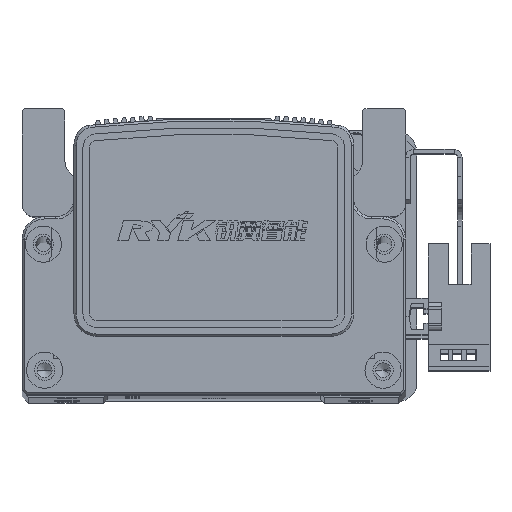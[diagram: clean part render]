
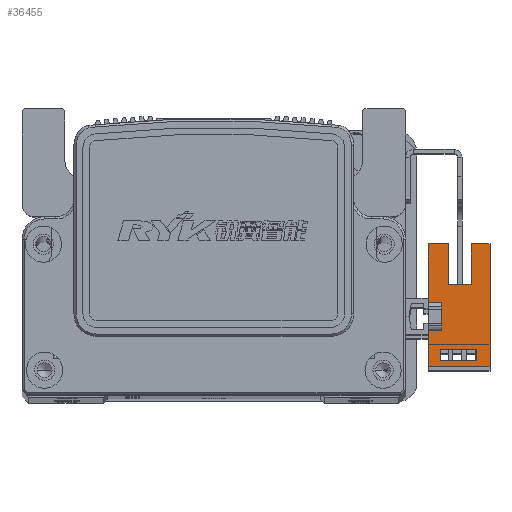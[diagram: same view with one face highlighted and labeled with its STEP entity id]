
A CAD part, top view. The second image highlights one B-rep face of the part: STEP entity #36455.
In plain terms, the highlighted planar face has unit normal (0, 0, 1) as drawn and (1, 0, 0) by its records, which use the part's own axes.
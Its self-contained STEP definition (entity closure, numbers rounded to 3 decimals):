
#11660 = AXIS2_PLACEMENT_3D ( 'NONE', #26209, #26229, #26242 ) ;
#13378 = VERTEX_POINT ( 'NONE', #36105 ) ;
#13508 = VERTEX_POINT ( 'NONE', #22534 ) ;
#13559 = VERTEX_POINT ( 'NONE', #22612 ) ;
#13571 = VERTEX_POINT ( 'NONE', #22663 ) ;
#13592 = VERTEX_POINT ( 'NONE', #22653 ) ;
#13671 = VERTEX_POINT ( 'NONE', #22659 ) ;
#15868 = CARTESIAN_POINT ( 'NONE',  ( 3.2, 3.1, 0. ) ) ;
#15870 = CARTESIAN_POINT ( 'NONE',  ( 3.2, 7.1, -6.5 ) ) ;
#15878 = CARTESIAN_POINT ( 'NONE',  ( 3.2, -3.1, 0. ) ) ;
#20461 = FACE_OUTER_BOUND ( 'NONE', #29423, .T. ) ;
#20475 = FACE_BOUND ( 'NONE', #29428, .T. ) ;
#22534 = CARTESIAN_POINT ( 'NONE',  ( 3.2, -3.1, 3. ) ) ;
#22612 = CARTESIAN_POINT ( 'NONE',  ( 3.2, 16.1, -10.7 ) ) ;
#22653 = CARTESIAN_POINT ( 'NONE',  ( 3.2, 16.1, 3. ) ) ;
#22659 = CARTESIAN_POINT ( 'NONE',  ( 3.2, 3.1, 3. ) ) ;
#22663 = CARTESIAN_POINT ( 'NONE',  ( 3.2, 16.1, -6.5 ) ) ;
#26209 = CARTESIAN_POINT ( 'NONE',  ( 3.2, 16.1, -10.7 ) ) ;
#26229 = DIRECTION ( 'NONE',  ( 1., 0., 0. ) ) ;
#26241 = PLANE ( 'NONE',  #11660 ) ;
#26242 = DIRECTION ( 'NONE',  ( 0., 1., 0. ) ) ;
#29423 = EDGE_LOOP ( 'NONE', ( #59808, #59763, #59761, #59839, #59791, #59806, #59792, #59800, #59810, #59783, #59834, #59829 ) ) ;
#29428 = EDGE_LOOP ( 'NONE', ( #59766, #59768, #59779, #59831 ) ) ;
#36105 = CARTESIAN_POINT ( 'NONE',  ( 3.2, -11.1, 3. ) ) ;
#36455 = ADVANCED_FACE ( 'NONE', ( #20461, #20475 ), #26241, .T. ) ;
#40261 = EDGE_CURVE ( 'NONE', #57428, #13671, #63963, .T. ) ;
#40281 = EDGE_CURVE ( 'NONE', #13378, #13508, #64021, .T. ) ;
#40286 = EDGE_CURVE ( 'NONE', #13559, #13571, #63974, .T. ) ;
#40306 = EDGE_CURVE ( 'NONE', #13671, #13592, #64012, .T. ) ;
#40313 = EDGE_CURVE ( 'NONE', #13508, #57429, #64069, .T. ) ;
#40321 = EDGE_CURVE ( 'NONE', #57478, #57480, #64065, .T. ) ;
#40324 = EDGE_CURVE ( 'NONE', #57453, #13378, #64060, .T. ) ;
#40331 = EDGE_CURVE ( 'NONE', #57439, #57478, #64089, .T. ) ;
#40335 = EDGE_CURVE ( 'NONE', #57480, #57468, #64043, .T. ) ;
#40339 = EDGE_CURVE ( 'NONE', #57453, #13559, #62942, .T. ) ;
#40343 = EDGE_CURVE ( 'NONE', #57467, #13592, #62903, .T. ) ;
#40346 = EDGE_CURVE ( 'NONE', #57432, #57456, #62937, .T. ) ;
#40348 = EDGE_CURVE ( 'NONE', #57468, #57439, #62935, .T. ) ;
#40354 = EDGE_CURVE ( 'NONE', #57456, #57467, #62947, .T. ) ;
#40360 = EDGE_CURVE ( 'NONE', #13571, #57432, #62897, .T. ) ;
#40381 = EDGE_CURVE ( 'NONE', #57429, #57428, #63788, .T. ) ;
#43019 = CARTESIAN_POINT ( 'NONE',  ( 3.2, -9.83, -7.7 ) ) ;
#43021 = CARTESIAN_POINT ( 'NONE',  ( 3.2, 7.1, -1.5 ) ) ;
#43029 = CARTESIAN_POINT ( 'NONE',  ( 3.2, -7.33, -7.7 ) ) ;
#43038 = CARTESIAN_POINT ( 'NONE',  ( 3.2, -7.33, 0.3 ) ) ;
#43057 = CARTESIAN_POINT ( 'NONE',  ( 3.2, -9.83, 0.3 ) ) ;
#43070 = CARTESIAN_POINT ( 'NONE',  ( 3.2, 16.1, -1.5 ) ) ;
#43074 = CARTESIAN_POINT ( 'NONE',  ( 3.2, -11.1, -10.7 ) ) ;
#57428 = VERTEX_POINT ( 'NONE', #15868 ) ;
#57429 = VERTEX_POINT ( 'NONE', #15878 ) ;
#57432 = VERTEX_POINT ( 'NONE', #15870 ) ;
#57439 = VERTEX_POINT ( 'NONE', #43029 ) ;
#57453 = VERTEX_POINT ( 'NONE', #43074 ) ;
#57456 = VERTEX_POINT ( 'NONE', #43021 ) ;
#57467 = VERTEX_POINT ( 'NONE', #43070 ) ;
#57468 = VERTEX_POINT ( 'NONE', #43019 ) ;
#57478 = VERTEX_POINT ( 'NONE', #43038 ) ;
#57480 = VERTEX_POINT ( 'NONE', #43057 ) ;
#59761 = ORIENTED_EDGE ( 'NONE', *, *, #40354, .T. ) ;
#59763 = ORIENTED_EDGE ( 'NONE', *, *, #40346, .T. ) ;
#59766 = ORIENTED_EDGE ( 'NONE', *, *, #40321, .F. ) ;
#59768 = ORIENTED_EDGE ( 'NONE', *, *, #40331, .F. ) ;
#59779 = ORIENTED_EDGE ( 'NONE', *, *, #40348, .F. ) ;
#59783 = ORIENTED_EDGE ( 'NONE', *, *, #40324, .F. ) ;
#59791 = ORIENTED_EDGE ( 'NONE', *, *, #40306, .F. ) ;
#59792 = ORIENTED_EDGE ( 'NONE', *, *, #40381, .F. ) ;
#59800 = ORIENTED_EDGE ( 'NONE', *, *, #40313, .F. ) ;
#59806 = ORIENTED_EDGE ( 'NONE', *, *, #40261, .F. ) ;
#59808 = ORIENTED_EDGE ( 'NONE', *, *, #40360, .T. ) ;
#59810 = ORIENTED_EDGE ( 'NONE', *, *, #40281, .F. ) ;
#59829 = ORIENTED_EDGE ( 'NONE', *, *, #40286, .T. ) ;
#59831 = ORIENTED_EDGE ( 'NONE', *, *, #40335, .F. ) ;
#59834 = ORIENTED_EDGE ( 'NONE', *, *, #40339, .T. ) ;
#59839 = ORIENTED_EDGE ( 'NONE', *, *, #40343, .T. ) ;
#60913 = CARTESIAN_POINT ( 'NONE',  ( 3.2, 3.1, 3. ) ) ;
#60956 = DIRECTION ( 'NONE',  ( 0., 0., 1. ) ) ;
#60980 = DIRECTION ( 'NONE',  ( 0., 1., 0. ) ) ;
#61041 = CARTESIAN_POINT ( 'NONE',  ( 3.2, 16.1, 3. ) ) ;
#61045 = CARTESIAN_POINT ( 'NONE',  ( 3.2, 16.1, -10.7 ) ) ;
#61046 = DIRECTION ( 'NONE',  ( 0., 0., 1. ) ) ;
#61062 = DIRECTION ( 'NONE',  ( 0., 1., 0. ) ) ;
#61131 = CARTESIAN_POINT ( 'NONE',  ( 3.2, 16.1, 3. ) ) ;
#61139 = CARTESIAN_POINT ( 'NONE',  ( 3.2, -7.33, -10.7 ) ) ;
#61146 = CARTESIAN_POINT ( 'NONE',  ( 3.2, -3.1, 3. ) ) ;
#61168 = CARTESIAN_POINT ( 'NONE',  ( 3.2, -11.1, 3. ) ) ;
#61170 = DIRECTION ( 'NONE',  ( 0., 0., -1. ) ) ;
#61182 = DIRECTION ( 'NONE',  ( 0., 0., 1. ) ) ;
#61188 = DIRECTION ( 'NONE',  ( 0., -1., 0. ) ) ;
#61193 = CARTESIAN_POINT ( 'NONE',  ( 3.2, 16.1, 0.3 ) ) ;
#61206 = CARTESIAN_POINT ( 'NONE',  ( 3.2, -9.83, -10.7 ) ) ;
#61208 = DIRECTION ( 'NONE',  ( 0., 0., 1. ) ) ;
#61222 = DIRECTION ( 'NONE',  ( 0., 0., 1. ) ) ;
#61225 = DIRECTION ( 'NONE',  ( 0., 0., -1. ) ) ;
#61227 = CARTESIAN_POINT ( 'NONE',  ( 3.2, 7.1, -6.5 ) ) ;
#61230 = CARTESIAN_POINT ( 'NONE',  ( 3.2, 16.1, -10.7 ) ) ;
#61241 = CARTESIAN_POINT ( 'NONE',  ( 3.2, 16.1, -10.7 ) ) ;
#61266 = CARTESIAN_POINT ( 'NONE',  ( 3.2, 16.1, -7.7 ) ) ;
#61280 = DIRECTION ( 'NONE',  ( 0., 0., 1. ) ) ;
#61288 = DIRECTION ( 'NONE',  ( 0., 1., 0. ) ) ;
#61304 = DIRECTION ( 'NONE',  ( 0., 1., 0. ) ) ;
#61325 = DIRECTION ( 'NONE',  ( 0., -1., 0. ) ) ;
#61341 = CARTESIAN_POINT ( 'NONE',  ( 3.2, 25.1, -1.5 ) ) ;
#61374 = CARTESIAN_POINT ( 'NONE',  ( 3.2, 25.1, -6.5 ) ) ;
#61376 = DIRECTION ( 'NONE',  ( 0., 1., 0. ) ) ;
#61419 = CARTESIAN_POINT ( 'NONE',  ( 3.2, 0., 0. ) ) ;
#61469 = DIRECTION ( 'NONE',  ( 0., 1., 0. ) ) ;
#62886 = VECTOR ( 'NONE', #61376, 1000. ) ;
#62889 = VECTOR ( 'NONE', #61288, 1000. ) ;
#62897 = LINE ( 'NONE', #61374, #62948 ) ;
#62903 = LINE ( 'NONE', #61230, #62920 ) ;
#62916 = VECTOR ( 'NONE', #61222, 1000. ) ;
#62920 = VECTOR ( 'NONE', #61208, 1000. ) ;
#62935 = LINE ( 'NONE', #61266, #62939 ) ;
#62937 = LINE ( 'NONE', #61227, #62916 ) ;
#62939 = VECTOR ( 'NONE', #61304, 1000. ) ;
#62942 = LINE ( 'NONE', #61241, #62889 ) ;
#62947 = LINE ( 'NONE', #61341, #62886 ) ;
#62948 = VECTOR ( 'NONE', #61325, 1000. ) ;
#63788 = LINE ( 'NONE', #61419, #63808 ) ;
#63808 = VECTOR ( 'NONE', #61469, 1000. ) ;
#63963 = LINE ( 'NONE', #60913, #63971 ) ;
#63971 = VECTOR ( 'NONE', #60956, 1000. ) ;
#63974 = LINE ( 'NONE', #61045, #64008 ) ;
#63981 = VECTOR ( 'NONE', #60980, 1000. ) ;
#64008 = VECTOR ( 'NONE', #61046, 1000. ) ;
#64012 = LINE ( 'NONE', #61131, #64013 ) ;
#64013 = VECTOR ( 'NONE', #61062, 1000. ) ;
#64021 = LINE ( 'NONE', #61041, #63981 ) ;
#64039 = VECTOR ( 'NONE', #61280, 1000. ) ;
#64043 = LINE ( 'NONE', #61206, #64047 ) ;
#64047 = VECTOR ( 'NONE', #61225, 1000. ) ;
#64051 = VECTOR ( 'NONE', #61170, 1000. ) ;
#64060 = LINE ( 'NONE', #61168, #64087 ) ;
#64065 = LINE ( 'NONE', #61193, #64078 ) ;
#64069 = LINE ( 'NONE', #61146, #64051 ) ;
#64078 = VECTOR ( 'NONE', #61188, 1000. ) ;
#64087 = VECTOR ( 'NONE', #61182, 1000. ) ;
#64089 = LINE ( 'NONE', #61139, #64039 ) ;
